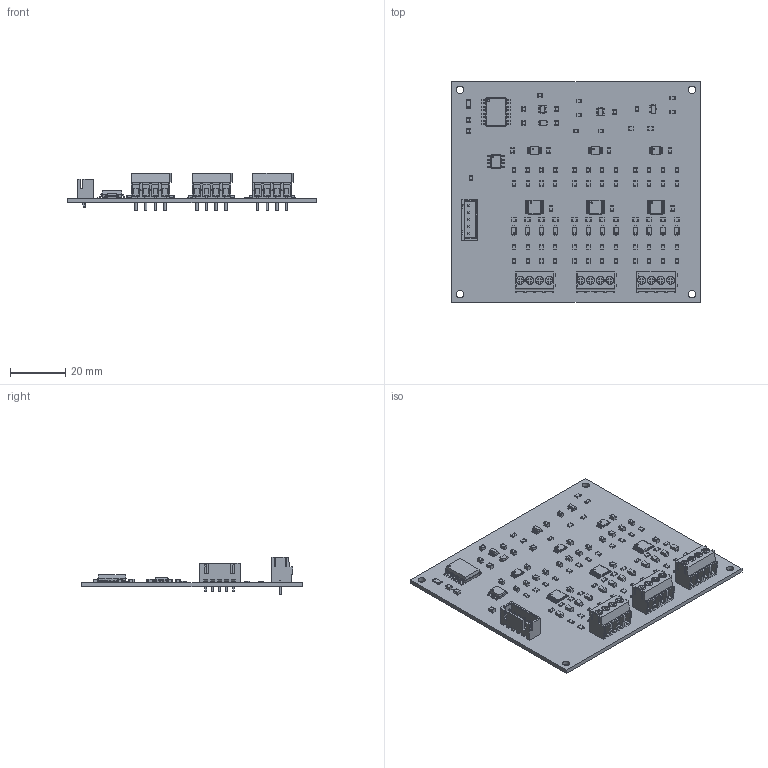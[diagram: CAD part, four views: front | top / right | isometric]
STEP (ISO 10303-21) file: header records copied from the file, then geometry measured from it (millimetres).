
FILE_DESCRIPTION(('KiCad electronic assembly'),'2;1');
FILE_NAME('tester12v.step','2026-09-30T12:06:11',('Pcbnew'),('Kicad'), 'Open CASCADE STEP processor 7.8','KiCad to STEP converter','Unknown' );
FILE_SCHEMA(('AUTOMOTIVE_DESIGN { 1 0 10303 214 1 1 1 1 }'));
Length unit declared in the file: millimetre
Products named in the file (16): tester12v 1; R_0805_2012Metric; C_0805_2012Metric; Nexperia_CFP3_SOD-123W; tester12v 1.5.1; D_SOD-123F; JST_XH_B5B-XH-A_1x05_P2.50mm_Vertical; TSSOP-10_3x3mm_P0.5mm; SOT-23-5; TerminalBlock_Phoenix_PT-1,5-4-3.5-H_1x04_P3.50mm_Horizontal; TSSOP-16_4.4x5mm_P0.65mm; Fuse_1206_3216Metric; SOIC-16W_7.5x10.3mm_P1.27mm; SOIC-8_3.9x4.9mm_P1.27mm; SOT-23; tester12v_PCB
Assembly tree (116 placements, depth 3):
  tester12v 1
    R_0805_2012Metric  x55
    C_0805_2012Metric  x30
    Nexperia_CFP3_SOD-123W
      tester12v 1.5.1
    D_SOD-123F  x12
    JST_XH_B5B-XH-A_1x05_P2.50mm_Vertical
    TSSOP-10_3x3mm_P0.5mm  x3
    SOT-23-5  x2
    TerminalBlock_Phoenix_PT-1,5-4-3.5-H_1x04_P3.50mm_Horizontal  x3
    TSSOP-16_4.4x5mm_P0.65mm  x3
    Fuse_1206_3216Metric
    SOIC-16W_7.5x10.3mm_P1.27mm
    SOIC-8_3.9x4.9mm_P1.27mm
    SOT-23
    tester12v_PCB
Bounding box: 90 x 80 x 13.7 mm (x, y, z)
Volume: 13673.3 mm3; surface area: 21487.7 mm2
Topology: 118 solids, 118 shells, 5493 faces, 14367 edges, 9239 vertices
Faces by surface type: plane 3828, cylinder 1383, bspline 282
Full cylindrical faces by diameter (mm): 0.9 x12, 0.95 x5, 1.2 x12, 2.7 x16, 2.9 x12
Entity records: 61482 total; most frequent: CARTESIAN_POINT 9016, ORIENTED_EDGE 8320, DIRECTION 7855, EDGE_CURVE 4161, LINE 3321, VECTOR 3321, VERTEX_POINT 2652, AXIS2_PLACEMENT_3D 2267
